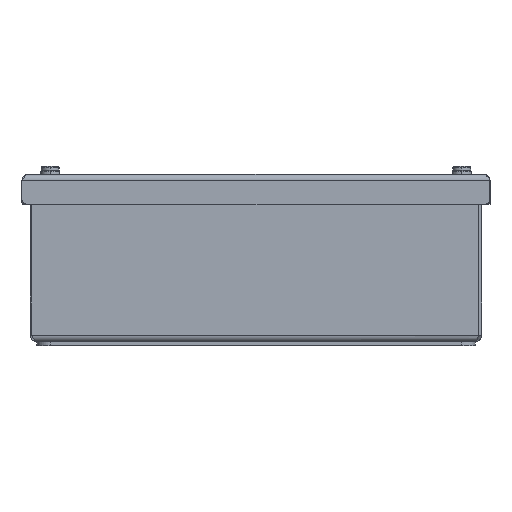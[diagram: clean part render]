
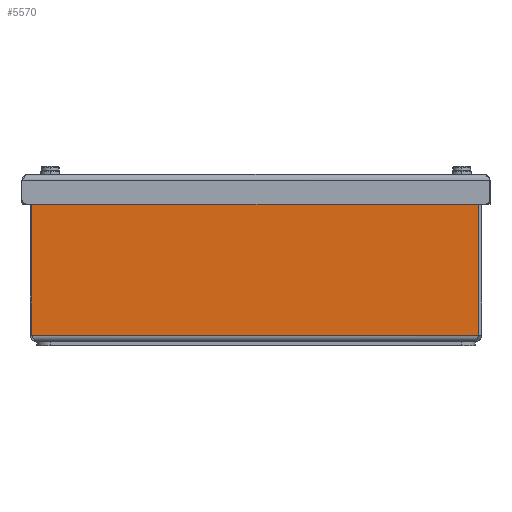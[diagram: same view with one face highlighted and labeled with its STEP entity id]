
A CAD part, left-side view. The second image highlights one B-rep face of the part: STEP entity #5570.
In plain terms, the highlighted planar face has unit normal (-1, 0, 0).
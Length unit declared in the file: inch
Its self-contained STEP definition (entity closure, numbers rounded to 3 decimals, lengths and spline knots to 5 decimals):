
#262=DIRECTION('',(0.,-1.,0.));
#263=VECTOR('',#262,8.418);
#264=CARTESIAN_POINT('',(0.,8.478,0.12));
#265=LINE('',#264,#263);
#1639=DIRECTION('',(0.,-1.,0.));
#1640=VECTOR('',#1639,7.72175);
#1641=CARTESIAN_POINT('',(0.,8.478,2.888));
#1642=LINE('',#1641,#1640);
#1724=DIRECTION('',(0.,0.,1.));
#1725=VECTOR('',#1724,2.768);
#1726=CARTESIAN_POINT('',(0.,8.478,0.12));
#1727=LINE('',#1726,#1725);
#1731=DIRECTION('',(0.,0.,1.));
#1732=VECTOR('',#1731,0.042);
#1733=CARTESIAN_POINT('',(0.,0.75625,2.888));
#1734=LINE('',#1733,#1732);
#1738=DIRECTION('',(0.,1.,0.));
#1739=VECTOR('',#1738,0.65125);
#1740=CARTESIAN_POINT('',(0.,0.105,2.93));
#1741=LINE('',#1740,#1739);
#1745=CARTESIAN_POINT('',(0.,0.105,2.885));
#1746=DIRECTION('',(-1.,0.,0.));
#1747=DIRECTION('',(0.,-1.,0.));
#1748=AXIS2_PLACEMENT_3D('',#1745,#1746,#1747);
#1795=DIRECTION('',(0.,0.,1.));
#1796=VECTOR('',#1795,2.765);
#1797=CARTESIAN_POINT('',(0.,0.06,0.12));
#1798=LINE('',#1797,#1796);
#3492=CARTESIAN_POINT('',(0.,0.75625,2.888));
#3493=CARTESIAN_POINT('',(0.,0.75625,2.93));
#3494=VERTEX_POINT('',#3492);
#3495=VERTEX_POINT('',#3493);
#3620=CARTESIAN_POINT('',(0.,8.478,0.12));
#3621=CARTESIAN_POINT('',(0.,8.478,2.888));
#3622=VERTEX_POINT('',#3620);
#3623=VERTEX_POINT('',#3621);
#3668=CARTESIAN_POINT('',(0.,0.06,2.885));
#3669=CARTESIAN_POINT('',(0.,0.105,2.93));
#3670=VERTEX_POINT('',#3668);
#3671=VERTEX_POINT('',#3669);
#3676=CARTESIAN_POINT('',(0.,0.06,0.12));
#3677=VERTEX_POINT('',#3676);
#5552=CARTESIAN_POINT('',(0.,8.5,0.));
#5553=DIRECTION('',(-1.,0.,0.));
#5554=DIRECTION('',(0.,-1.,0.));
#5555=AXIS2_PLACEMENT_3D('',#5552,#5553,#5554);
#5556=PLANE('',#5555);
#5557=ORIENTED_EDGE('',*,*,#5133,.T.);
#5558=ORIENTED_EDGE('',*,*,#5542,.T.);
#5560=ORIENTED_EDGE('',*,*,#5559,.T.);
#5562=ORIENTED_EDGE('',*,*,#5561,.F.);
#5564=ORIENTED_EDGE('',*,*,#5563,.F.);
#5566=ORIENTED_EDGE('',*,*,#5565,.F.);
#5567=ORIENTED_EDGE('',*,*,#4072,.F.);
#5568=EDGE_LOOP('',(#5557,#5558,#5560,#5562,#5564,#5566,#5567));
#5569=FACE_OUTER_BOUND('',#5568,.F.);
#1749=CIRCLE('',#1748,0.045);
#4072=EDGE_CURVE('',#3622,#3677,#265,.T.);
#5133=EDGE_CURVE('',#3622,#3623,#1727,.T.);
#5542=EDGE_CURVE('',#3623,#3494,#1642,.T.);
#5559=EDGE_CURVE('',#3494,#3495,#1734,.T.);
#5561=EDGE_CURVE('',#3671,#3495,#1741,.T.);
#5563=EDGE_CURVE('',#3670,#3671,#1749,.T.);
#5565=EDGE_CURVE('',#3677,#3670,#1798,.T.);
#5570=ADVANCED_FACE('',(#5569),#5556,.T.);
